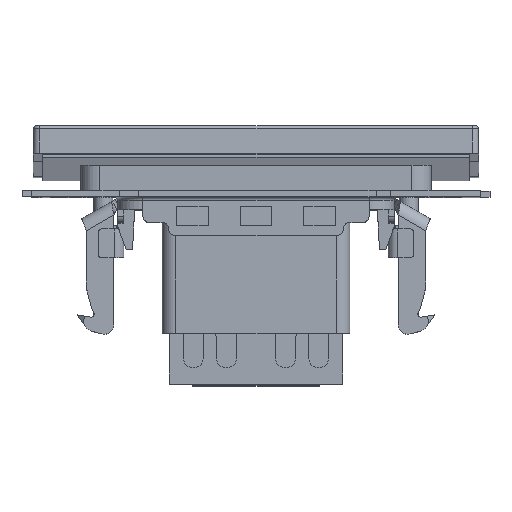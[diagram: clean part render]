
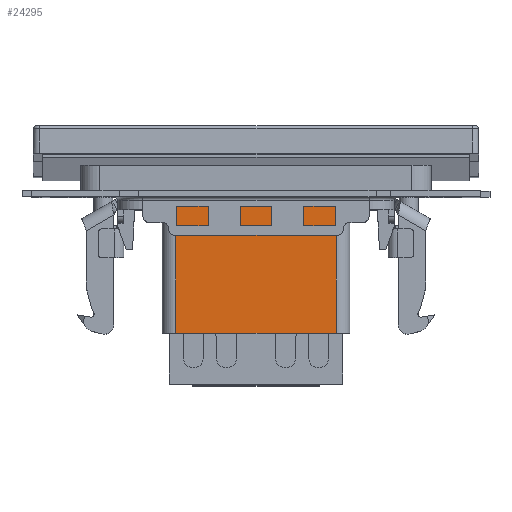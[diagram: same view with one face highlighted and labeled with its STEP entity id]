
A CAD part, top view. The second image highlights one B-rep face of the part: STEP entity #24295.
In plain terms, the highlighted planar face has unit normal (0, 0, 1).
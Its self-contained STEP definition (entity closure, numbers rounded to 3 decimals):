
#2542 = DIRECTION ( 'NONE',  ( 0., 0., -1. ) ) ;
#6554 = AXIS2_PLACEMENT_3D ( 'NONE', #32747, #2542, #37559 ) ;
#8369 = EDGE_CURVE ( 'NONE', #32521, #17990, #54642, .T. ) ;
#8994 = EDGE_CURVE ( 'NONE', #24408, #12832, #42116, .T. ) ;
#9303 = DIRECTION ( 'NONE',  ( -1., 0., 0. ) ) ;
#12832 = VERTEX_POINT ( 'NONE', #41494 ) ;
#16592 = VECTOR ( 'NONE', #27110, 1000. ) ;
#17990 = VERTEX_POINT ( 'NONE', #62044 ) ;
#22040 = VECTOR ( 'NONE', #61706, 1000. ) ;
#23394 = PLANE ( 'NONE',  #6554 ) ;
#24295 = ADVANCED_FACE ( 'NONE', ( #51682 ), #23394, .F. ) ;
#24408 = VERTEX_POINT ( 'NONE', #58401 ) ;
#26397 = CARTESIAN_POINT ( 'NONE',  ( 64.609, 50.748, 54.193 ) ) ;
#27110 = DIRECTION ( 'NONE',  ( 1., 0., 0. ) ) ;
#32521 = VERTEX_POINT ( 'NONE', #50353 ) ;
#32747 = CARTESIAN_POINT ( 'NONE',  ( 64.609, 50.748, 54.193 ) ) ;
#33120 = EDGE_CURVE ( 'NONE', #17990, #12832, #50887, .T. ) ;
#34975 = VECTOR ( 'NONE', #9303, 1000. ) ;
#35482 = ORIENTED_EDGE ( 'NONE', *, *, #33120, .T. ) ;
#36761 = ORIENTED_EDGE ( 'NONE', *, *, #8369, .T. ) ;
#37559 = DIRECTION ( 'NONE',  ( -1., 0., 0. ) ) ;
#37681 = VECTOR ( 'NONE', #40200, 1000. ) ;
#40200 = DIRECTION ( 'NONE',  ( 0., -1., 0. ) ) ;
#41494 = CARTESIAN_POINT ( 'NONE',  ( 64.609, 28.548, 54.193 ) ) ;
#42116 = LINE ( 'NONE', #26397, #22040 ) ;
#42200 = CARTESIAN_POINT ( 'NONE',  ( 64.609, 28.548, 54.193 ) ) ;
#45569 = ORIENTED_EDGE ( 'NONE', *, *, #53659, .T. ) ;
#46697 = EDGE_LOOP ( 'NONE', ( #60557, #45569, #36761, #35482 ) ) ;
#48491 = CARTESIAN_POINT ( 'NONE',  ( 64.609, 50.948, 54.193 ) ) ;
#50353 = CARTESIAN_POINT ( 'NONE',  ( 39.409, 50.948, 54.193 ) ) ;
#50887 = LINE ( 'NONE', #42200, #16592 ) ;
#51682 = FACE_OUTER_BOUND ( 'NONE', #46697, .T. ) ;
#53659 = EDGE_CURVE ( 'NONE', #24408, #32521, #62343, .T. ) ;
#54642 = LINE ( 'NONE', #60410, #37681 ) ;
#58401 = CARTESIAN_POINT ( 'NONE',  ( 64.609, 50.948, 54.193 ) ) ;
#60410 = CARTESIAN_POINT ( 'NONE',  ( 39.409, 50.748, 54.193 ) ) ;
#60557 = ORIENTED_EDGE ( 'NONE', *, *, #8994, .F. ) ;
#61706 = DIRECTION ( 'NONE',  ( 0., -1., 0. ) ) ;
#62044 = CARTESIAN_POINT ( 'NONE',  ( 39.409, 28.548, 54.193 ) ) ;
#62343 = LINE ( 'NONE', #48491, #34975 ) ;
